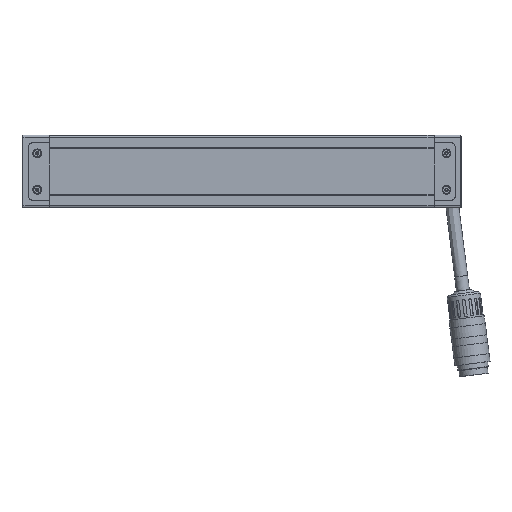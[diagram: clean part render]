
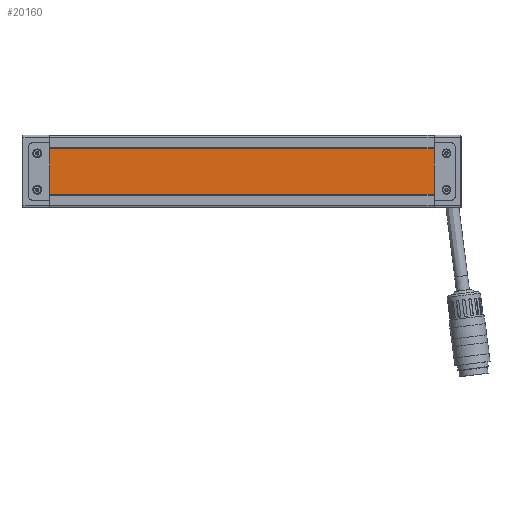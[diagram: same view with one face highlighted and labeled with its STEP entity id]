
A CAD part, top view. The second image highlights one B-rep face of the part: STEP entity #20160.
In plain terms, the highlighted planar face has unit normal (0, 0, 1).
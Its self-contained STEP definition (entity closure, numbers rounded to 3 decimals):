
#977=LINE('',#28644,#1979);
#982=LINE('',#28662,#1984);
#983=LINE('',#28664,#1985);
#984=LINE('',#28666,#1986);
#1979=VECTOR('',#23651,1000.);
#1984=VECTOR('',#23670,1000.);
#1985=VECTOR('',#23673,1000.);
#1986=VECTOR('',#23674,1000.);
#2709=PLANE('',#21290);
#4323=ORIENTED_EDGE('',*,*,#7874,.F.);
#4324=ORIENTED_EDGE('',*,*,#7864,.T.);
#4325=ORIENTED_EDGE('',*,*,#7873,.F.);
#4326=ORIENTED_EDGE('',*,*,#7875,.F.);
#7864=EDGE_CURVE('',#9720,#9719,#977,.T.);
#7873=EDGE_CURVE('',#9725,#9719,#982,.T.);
#7874=EDGE_CURVE('',#9720,#9726,#983,.T.);
#7875=EDGE_CURVE('',#9726,#9725,#984,.T.);
#9719=VERTEX_POINT('',#28643);
#9720=VERTEX_POINT('',#28645);
#9725=VERTEX_POINT('',#28661);
#9726=VERTEX_POINT('',#28665);
#11482=EDGE_LOOP('',(#4323,#4324,#4325,#4326));
#12575=FACE_BOUND('',#11482,.T.);
#20160=ADVANCED_FACE('',(#12575),#2709,.T.);
#21290=AXIS2_PLACEMENT_3D('',#28663,#23671,#23672);
#23651=DIRECTION('',(0.,-1.,0.));
#23670=DIRECTION('',(-1.,0.,0.));
#23671=DIRECTION('',(0.,0.,1.));
#23672=DIRECTION('',(0.,1.,0.));
#23673=DIRECTION('',(1.,0.,0.));
#23674=DIRECTION('',(0.,-1.,0.));
#28643=CARTESIAN_POINT('',(-100.498,-12.311,37.819));
#28644=CARTESIAN_POINT('',(-100.498,19.,37.819));
#28645=CARTESIAN_POINT('',(-100.498,12.31,37.819));
#28661=CARTESIAN_POINT('',(100.502,-12.311,37.819));
#28662=CARTESIAN_POINT('',(100.502,-12.311,37.819));
#28663=CARTESIAN_POINT('',(-100.498,19.,37.819));
#28664=CARTESIAN_POINT('',(-100.498,12.31,37.819));
#28665=CARTESIAN_POINT('',(100.502,12.31,37.819));
#28666=CARTESIAN_POINT('',(100.502,19.,37.819));
